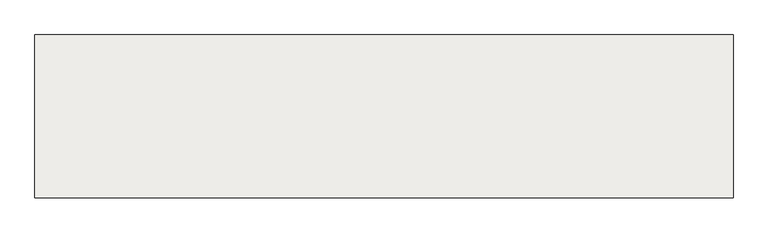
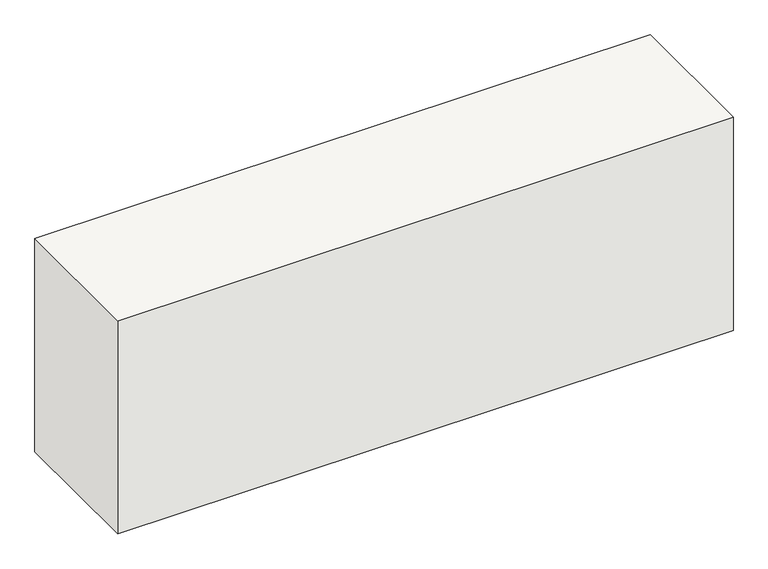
"""IFC4 building model written with IfcOpenShell, lengths in millimetres: slab geometry, Wall Foundation:16_SFO_prefab beton_C35-45_350x550:317423 : Wall Foundation:16_SFO_prefab beton_C35-45_350x550:317423."""

from ifc_helpers import new_model, si_unit, frame, origin, place, context, project, spatial, polyline, outline, extrude, source, transform, mapped, element, save


def slab_6829c25e(model_context):
    return source(origin(), model_context, "Body", "SweptSolid", [
        extrude(outline(polyline([(28189.8687149, -7923.9380074), (26689.8687149, -7923.9380074), (26689.8687149, -7573.9380074), (28189.8687149, -7573.9380074), (28189.8687149, -7923.9380074)])), frame((0.0, 0.0, -550.0), z_axis=(0.0, 0.0, 1.0), x_axis=(1.0, 0.0, 0.0)), (0.0, 0.0, 1.0), 550.0),
    ])


if __name__ == "__main__":
    model = new_model("IFC4")
    model_context = context("Model", 3, world=origin())
    ifc_project = project(units=[si_unit("LENGTHUNIT", "METRE", prefix="MILLI")], contexts=[model_context])
    site = spatial("IfcSite", under=ifc_project)
    building = spatial("IfcBuilding", under=site)
    placement = place(None, origin())
    slab_shape = slab_6829c25e(model_context)
    element("IfcSlab", 1, ObjectType="Wall Foundation:16_SFO_prefab beton_C35-45_350x550:317423 : Wall Foundation:16_SFO_prefab beton_C35-45_350x550:317423", at=placement, inside=building, context=model_context, shape_type="MappedRepresentation", body=[
        mapped(slab_shape, transform((0.0, 0.0, 0.0), x_axis=(1.0, 0.0, 0.0), y_axis=(0.0, 1.0, 0.0), z_axis=(0.0, 0.0, 1.0))),
    ])
    save(model, "model.ifc")
